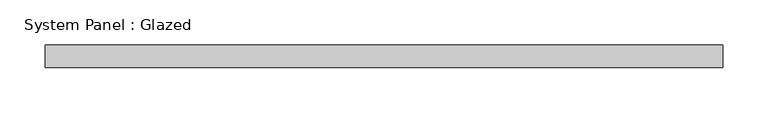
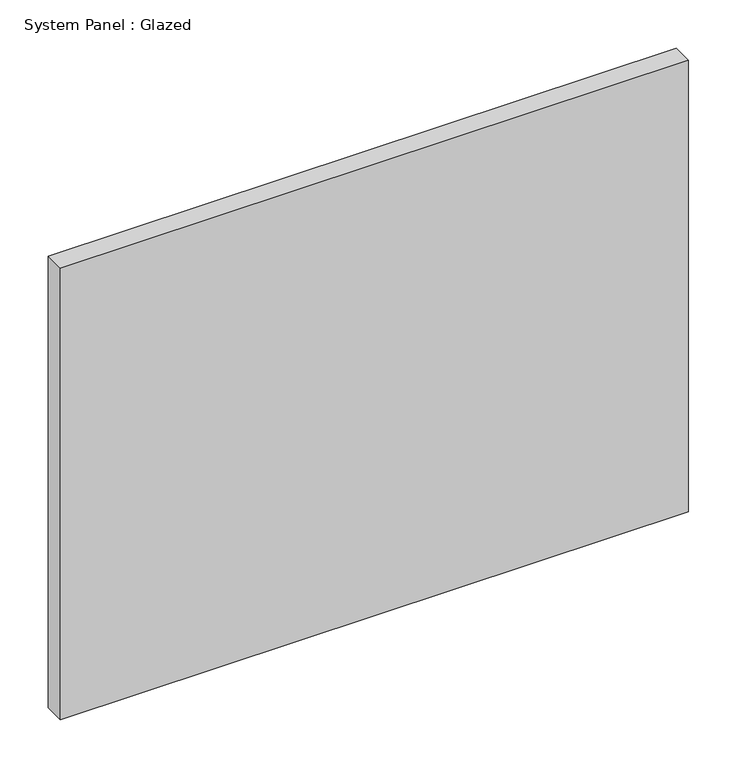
"""IFC4 building model written with IfcOpenShell, lengths in millimetres: plate geometry, System Panel : Glazed."""

from ifc_helpers import new_model, si_unit, origin, origin_with_axes, place, context, project, spatial, polyline, outline, extrude, source, transform, mapped, element, save


def system_panel_glazed_9f0f34b9(model_context):
    return source(origin(), model_context, "Body", "SweptSolid", [
        extrude(outline(polyline([(375.9636197, 19.05), (-375.9636197, 19.05), (-375.9636197, 44.45), (375.9636197, 44.45), (375.9636197, 19.05)])), origin_with_axes(), (0.0, 0.0, 1.0), 571.5),
    ])


if __name__ == "__main__":
    model = new_model("IFC4")
    model_context = context("Model", 3, world=origin())
    ifc_project = project(units=[si_unit("LENGTHUNIT", "METRE", prefix="MILLI")], contexts=[model_context])
    site = spatial("IfcSite", under=ifc_project)
    building = spatial("IfcBuilding", under=site)
    placement = place(None, origin())
    system_panel_glazed_shape = system_panel_glazed_9f0f34b9(model_context)
    element("IfcPlate", 1, ObjectType="System Panel : Glazed", at=placement, inside=building, context=model_context, shape_type="MappedRepresentation", body=[
        mapped(system_panel_glazed_shape, transform((0.0, 0.0, 0.0), x_axis=(1.0, 0.0, 0.0), y_axis=(0.0, 1.0, 0.0), z_axis=(0.0, 0.0, 1.0))),
    ])
    save(model, "model.ifc")
